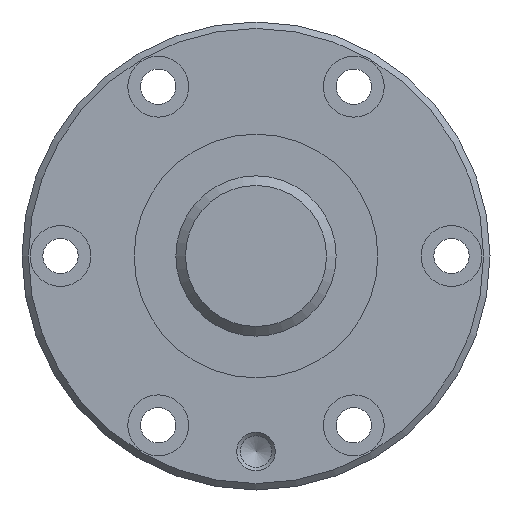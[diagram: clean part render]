
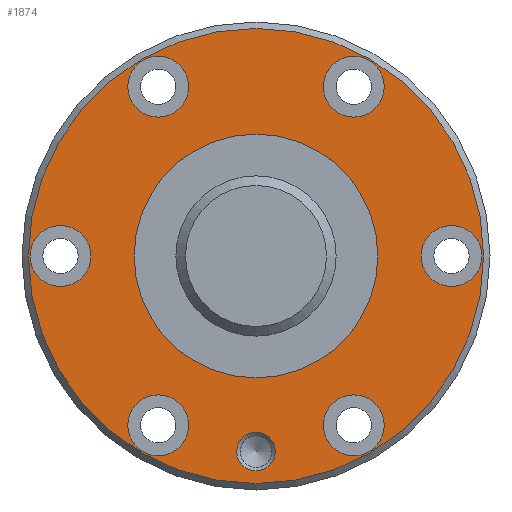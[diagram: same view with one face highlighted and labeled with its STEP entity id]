
A CAD part, left-side view. The second image highlights one B-rep face of the part: STEP entity #1874.
In plain terms, the highlighted planar face has unit normal (-1, 0, 0).
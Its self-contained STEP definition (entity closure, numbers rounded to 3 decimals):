
#452=ORIENTED_EDGE('',*,*,#936,.T.);
#453=ORIENTED_EDGE('',*,*,#937,.T.);
#454=ORIENTED_EDGE('',*,*,#938,.T.);
#455=ORIENTED_EDGE('',*,*,#939,.T.);
#456=ORIENTED_EDGE('',*,*,#940,.T.);
#457=ORIENTED_EDGE('',*,*,#941,.T.);
#458=ORIENTED_EDGE('',*,*,#942,.T.);
#459=ORIENTED_EDGE('',*,*,#943,.T.);
#460=ORIENTED_EDGE('',*,*,#944,.F.);
#936=EDGE_CURVE('',#1179,#1179,#1337,.T.);
#937=EDGE_CURVE('',#1180,#1180,#1338,.T.);
#938=EDGE_CURVE('',#1181,#1181,#1339,.T.);
#939=EDGE_CURVE('',#1182,#1182,#1340,.T.);
#940=EDGE_CURVE('',#1183,#1183,#1341,.T.);
#941=EDGE_CURVE('',#1184,#1184,#1342,.T.);
#942=EDGE_CURVE('',#1185,#1185,#1343,.T.);
#943=EDGE_CURVE('',#1186,#1186,#1344,.T.);
#944=EDGE_CURVE('',#1187,#1187,#1345,.T.);
#1179=VERTEX_POINT('',#2953);
#1180=VERTEX_POINT('',#2955);
#1181=VERTEX_POINT('',#2957);
#1182=VERTEX_POINT('',#2959);
#1183=VERTEX_POINT('',#2961);
#1184=VERTEX_POINT('',#2963);
#1185=VERTEX_POINT('',#2965);
#1186=VERTEX_POINT('',#2967);
#1187=VERTEX_POINT('',#2969);
#1337=CIRCLE('',#2032,19.);
#1338=CIRCLE('',#2033,4.75);
#1339=CIRCLE('',#2034,4.75);
#1340=CIRCLE('',#2035,3.);
#1341=CIRCLE('',#2036,4.75);
#1342=CIRCLE('',#2037,4.75);
#1343=CIRCLE('',#2038,4.75);
#1344=CIRCLE('',#2039,4.75);
#1345=CIRCLE('',#2040,35.5);
#1433=EDGE_LOOP('',(#452));
#1434=EDGE_LOOP('',(#453));
#1435=EDGE_LOOP('',(#454));
#1436=EDGE_LOOP('',(#455));
#1437=EDGE_LOOP('',(#456));
#1438=EDGE_LOOP('',(#457));
#1439=EDGE_LOOP('',(#458));
#1440=EDGE_LOOP('',(#459));
#1441=EDGE_LOOP('',(#460));
#1621=FACE_BOUND('',#1433,.T.);
#1622=FACE_BOUND('',#1434,.T.);
#1623=FACE_BOUND('',#1435,.T.);
#1624=FACE_BOUND('',#1436,.T.);
#1625=FACE_BOUND('',#1437,.T.);
#1626=FACE_BOUND('',#1438,.T.);
#1627=FACE_BOUND('',#1439,.T.);
#1628=FACE_BOUND('',#1440,.T.);
#1629=FACE_BOUND('',#1441,.T.);
#1800=PLANE('',#2031);
#1874=ADVANCED_FACE('',(#1621,#1622,#1623,#1624,#1625,#1626,#1627,#1628,
#1629),#1800,.T.);
#2031=AXIS2_PLACEMENT_3D('',#2951,#2296,#2297);
#2032=AXIS2_PLACEMENT_3D('',#2952,#2298,#2299);
#2033=AXIS2_PLACEMENT_3D('',#2954,#2300,#2301);
#2034=AXIS2_PLACEMENT_3D('',#2956,#2302,#2303);
#2035=AXIS2_PLACEMENT_3D('',#2958,#2304,#2305);
#2036=AXIS2_PLACEMENT_3D('',#2960,#2306,#2307);
#2037=AXIS2_PLACEMENT_3D('',#2962,#2308,#2309);
#2038=AXIS2_PLACEMENT_3D('',#2964,#2310,#2311);
#2039=AXIS2_PLACEMENT_3D('',#2966,#2312,#2313);
#2040=AXIS2_PLACEMENT_3D('',#2968,#2314,#2315);
#2296=DIRECTION('',(-1.,0.,0.));
#2297=DIRECTION('',(0.,0.,1.));
#2298=DIRECTION('',(1.,0.,0.));
#2299=DIRECTION('',(0.,0.,-1.));
#2300=DIRECTION('',(1.,0.,0.));
#2301=DIRECTION('',(0.,0.,-1.));
#2302=DIRECTION('',(1.,0.,0.));
#2303=DIRECTION('',(0.,0.,-1.));
#2304=DIRECTION('',(1.,0.,0.));
#2305=DIRECTION('',(0.,0.,-1.));
#2306=DIRECTION('',(1.,0.,0.));
#2307=DIRECTION('',(0.,0.,-1.));
#2308=DIRECTION('',(1.,0.,0.));
#2309=DIRECTION('',(0.,0.,-1.));
#2310=DIRECTION('',(1.,0.,0.));
#2311=DIRECTION('',(0.,0.,-1.));
#2312=DIRECTION('',(1.,0.,0.));
#2313=DIRECTION('',(0.,0.,-1.));
#2314=DIRECTION('',(1.,0.,0.));
#2315=DIRECTION('',(0.,0.,-1.));
#2951=CARTESIAN_POINT('',(0.,35.5,0.));
#2952=CARTESIAN_POINT('',(0.,0.,0.));
#2953=CARTESIAN_POINT('',(0.,0.,-19.));
#2954=CARTESIAN_POINT('',(0.,-26.414,-15.25));
#2955=CARTESIAN_POINT('',(0.,-26.414,-20.));
#2956=CARTESIAN_POINT('',(0.,26.414,15.25));
#2957=CARTESIAN_POINT('',(0.,26.414,10.5));
#2958=CARTESIAN_POINT('',(0.,-30.5,0.));
#2959=CARTESIAN_POINT('',(0.,-30.5,-3.));
#2960=CARTESIAN_POINT('',(0.,0.,30.5));
#2961=CARTESIAN_POINT('',(0.,0.,25.75));
#2962=CARTESIAN_POINT('',(0.,-26.414,15.25));
#2963=CARTESIAN_POINT('',(0.,-26.414,10.5));
#2964=CARTESIAN_POINT('',(0.,0.,-30.5));
#2965=CARTESIAN_POINT('',(0.,0.,-35.25));
#2966=CARTESIAN_POINT('',(0.,26.414,-15.25));
#2967=CARTESIAN_POINT('',(0.,26.414,-20.));
#2968=CARTESIAN_POINT('',(0.,0.,0.));
#2969=CARTESIAN_POINT('',(0.,0.,-35.5));
